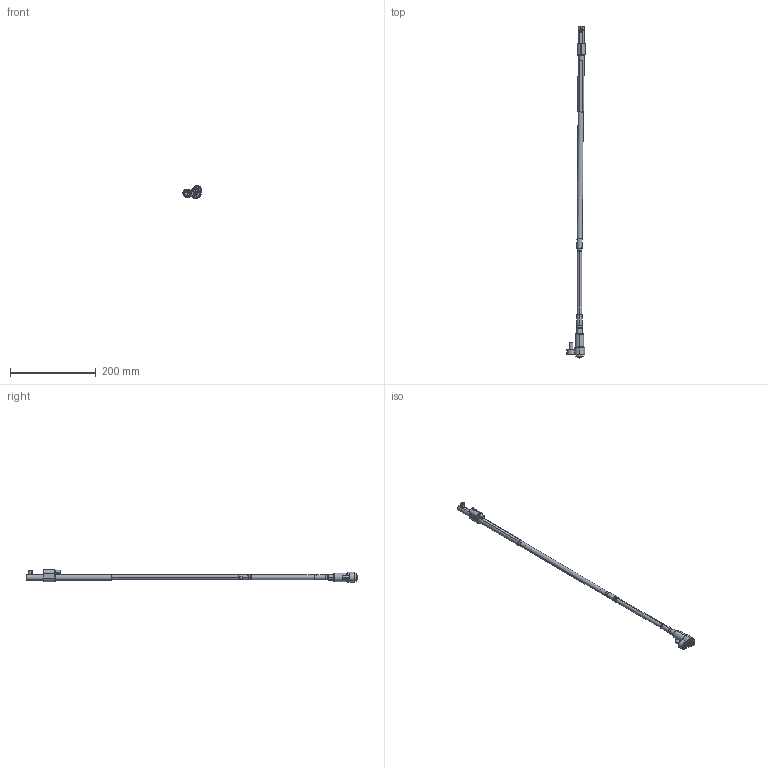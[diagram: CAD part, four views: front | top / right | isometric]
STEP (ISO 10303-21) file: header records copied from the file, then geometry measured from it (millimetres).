
FILE_DESCRIPTION (( 'STEP AP214' ), '1' );
FILE_NAME ('WL120125-INJ 0,5°.STEP', '2021-03-19T15:39:07', ( '' ), ( '' ), 'SwSTEP 2.0', 'SolidWorks 2019', '' );
FILE_SCHEMA (( 'AUTOMOTIVE_DESIGN' ));
Length unit declared in the file: millimetre
Products named in the file (17): Web-WL12-A3; Web-WL12-F00.SLDPRT; WL120100-B1; WL120100-D; WL120125-INJ 0,5°; 1DIN912645_DIN 912 M6 x 45 --- 45C; 8WL12EJEP; Web-WL12-F01; 3IMAN5X3-150_con sellador; WL120100-B; 1DIN912820_DIN 912 M8 x 20 --- 20C; Web-WL12-XX_OFF-WL120125-0,5; WL120100-E; Web-WL12-A2; 9DR2808-TOR; Web-WL12-A8; Web-WL12-A1
Assembly tree (16 placements, depth 3):
  WL120125-INJ 0,5°
    Web-WL12-A8
    Web-WL12-XX_OFF-WL120125-0,5
    Web-WL12-A3
    Web-WL12-A2
    Web-WL12-A1
    Web-WL12-F00.SLDPRT
      Web-WL12-F01
      1DIN912820_DIN 912 M8 x 20 --- 20C
      1DIN912645_DIN 912 M6 x 45 --- 45C
    WL120100-D
    8WL12EJEP
    WL120100-E
    9DR2808-TOR
    WL120100-B
      WL120100-B1
      3IMAN5X3-150_con sellador
Bounding box: 42.61 x 773.04 x 29.9 mm (x, y, z)
Volume: 116548.5 mm3; surface area: 51030 mm2
Topology: 15 solids, 15 shells, 432 faces, 906 edges, 525 vertices
Faces by surface type: plane 139, cylinder 123, cone 120, torus 50
Entity records: 13661 total; most frequent: DIRECTION 2240, CARTESIAN_POINT 2104, ORIENTED_EDGE 1788, AXIS2_PLACEMENT_3D 929, EDGE_CURVE 894, VERTEX_POINT 525, EDGE_LOOP 477, CIRCLE 476
